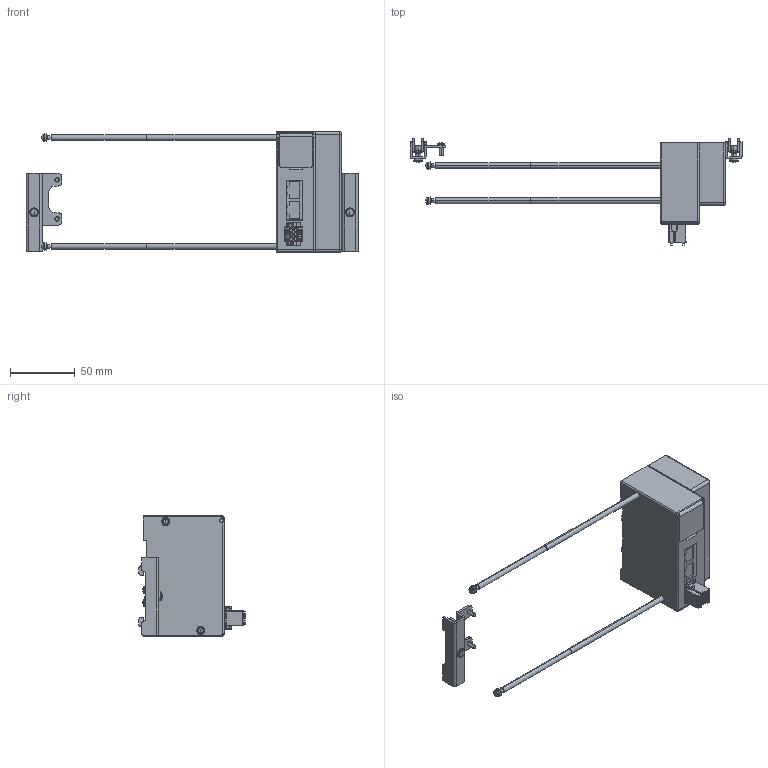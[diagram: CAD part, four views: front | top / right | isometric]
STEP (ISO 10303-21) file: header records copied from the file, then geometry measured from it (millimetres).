
FILE_DESCRIPTION( (''), '2;1');
FILE_NAME ('YS8EK3-8-DN.stp','2022-12-01T14:40:36',(''),(''),'spGate 12.6.6','','');
FILE_SCHEMA (('AUTOMOTIVE_DESIGN'));
Length unit declared in the file: millimetre
Products named in the file (3): Assembly; YS8EK3-8-DN-prt0; YS8EK3-8-DN-prt1
Assembly tree (3 placements, depth 2):
  Assembly
    YS8EK3-8-DN-prt0
    YS8EK3-8-DN-prt1  x2
Bounding box: 256 x 82.1 x 93 mm (x, y, z)
Volume: 269282.1 mm3; surface area: 50129.7 mm2
Topology: 3 solids, 3 shells, 983 faces, 2565 edges, 1641 vertices
Faces by surface type: plane 563, cylinder 314, bspline 90, sphere 16
Entity records: 44494 total; most frequent: CARTESIAN_POINT 6157, ORIENTED_EDGE 4408, DIRECTION 4156, COLOUR_RGB 3058, PRESENTATION_STYLE_ASSIGNMENT 3058, STYLED_ITEM 3058, EDGE_CURVE 2204, DRAUGHTING_PRE_DEFINED_CURVE_FONT 2204
